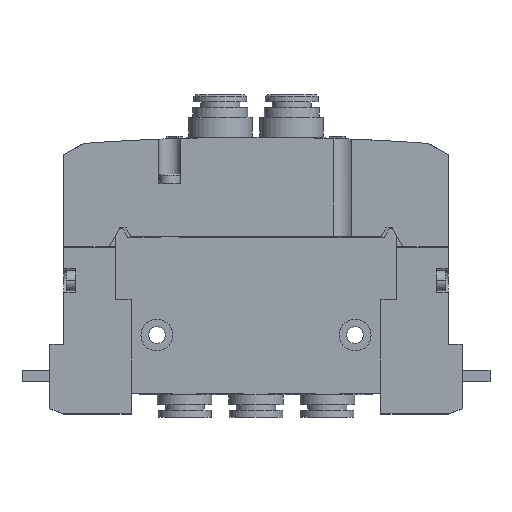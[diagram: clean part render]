
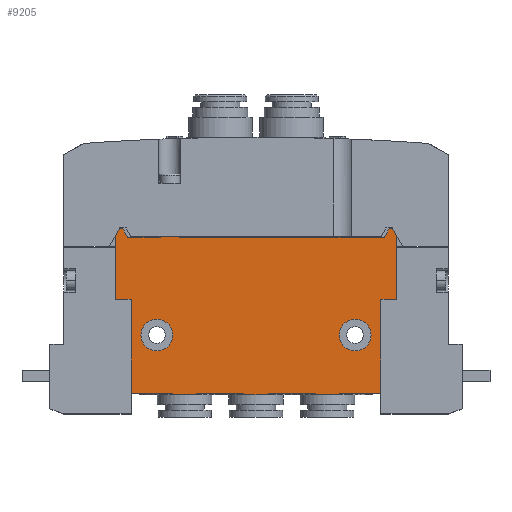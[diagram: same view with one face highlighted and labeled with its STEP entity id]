
A CAD part, top view. The second image highlights one B-rep face of the part: STEP entity #9205.
In plain terms, the highlighted planar face has unit normal (0, 0, 1).
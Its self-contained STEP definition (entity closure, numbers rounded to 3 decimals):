
#324=CARTESIAN_POINT('',(-25.,14.7,9.));
#325=DIRECTION('',(0.,0.,1.));
#326=DIRECTION('',(1.,0.,0.));
#327=AXIS2_PLACEMENT_3D('',#324,#325,#326);
#332=CARTESIAN_POINT('',(-25.,14.7,9.));
#333=DIRECTION('',(0.,0.,1.));
#334=DIRECTION('',(-1.,0.,0.));
#335=AXIS2_PLACEMENT_3D('',#332,#333,#334);
#340=CARTESIAN_POINT('',(25.,14.7,9.));
#341=DIRECTION('',(0.,0.,1.));
#342=DIRECTION('',(1.,0.,0.));
#343=AXIS2_PLACEMENT_3D('',#340,#341,#342);
#348=CARTESIAN_POINT('',(25.,14.7,9.));
#349=DIRECTION('',(0.,0.,1.));
#350=DIRECTION('',(-1.,0.,0.));
#351=AXIS2_PLACEMENT_3D('',#348,#349,#350);
#356=DIRECTION('',(1.,0.,0.));
#357=VECTOR('',#356,11.917);
#358=CARTESIAN_POINT('',(3.041,0.,9.));
#359=LINE('',#358,#357);
#363=DIRECTION('',(0.,-1.,0.));
#364=VECTOR('',#363,0.3);
#365=CARTESIAN_POINT('',(3.041,0.,9.));
#366=LINE('',#365,#364);
#370=DIRECTION('',(1.,0.,0.));
#371=VECTOR('',#370,11.917);
#372=CARTESIAN_POINT('',(-14.959,0.,9.));
#373=LINE('',#372,#371);
#377=DIRECTION('',(0.,-1.,0.));
#378=VECTOR('',#377,0.3);
#379=CARTESIAN_POINT('',(-14.959,0.,9.));
#380=LINE('',#379,#378);
#384=DIRECTION('',(1.,0.,0.));
#385=VECTOR('',#384,10.459);
#386=CARTESIAN_POINT('',(-31.5,0.,9.));
#387=LINE('',#386,#385);
#391=DIRECTION('',(0.,-1.,0.));
#392=VECTOR('',#391,23.7);
#393=CARTESIAN_POINT('',(-31.5,23.7,9.));
#394=LINE('',#393,#392);
#398=DIRECTION('',(1.,0.,0.));
#399=VECTOR('',#398,3.9);
#400=CARTESIAN_POINT('',(-35.4,23.7,9.));
#401=LINE('',#400,#399);
#405=DIRECTION('',(0.,-1.,0.));
#406=VECTOR('',#405,16.);
#407=CARTESIAN_POINT('',(-35.4,39.7,9.));
#408=LINE('',#407,#406);
#412=DIRECTION('',(-0.5,-0.866,0.));
#413=VECTOR('',#412,2.078);
#414=CARTESIAN_POINT('',(-34.361,41.5,9.));
#415=LINE('',#414,#413);
#419=DIRECTION('',(-1.,0.,0.));
#420=VECTOR('',#419,0.765);
#421=CARTESIAN_POINT('',(-33.596,41.5,9.));
#422=LINE('',#421,#420);
#426=DIRECTION('',(-0.5,0.866,0.));
#427=VECTOR('',#426,2.54);
#428=CARTESIAN_POINT('',(-32.326,39.3,9.));
#429=LINE('',#428,#427);
#433=DIRECTION('',(-1.,0.,0.));
#434=VECTOR('',#433,8.179);
#435=CARTESIAN_POINT('',(-24.147,39.3,9.));
#436=LINE('',#435,#434);
#440=DIRECTION('',(0.,1.,0.));
#441=VECTOR('',#440,0.3);
#442=CARTESIAN_POINT('',(-24.147,39.3,9.));
#443=LINE('',#442,#441);
#447=DIRECTION('',(-1.,0.,0.));
#448=VECTOR('',#447,51.679);
#449=CARTESIAN_POINT('',(32.326,39.3,9.));
#450=LINE('',#449,#448);
#454=DIRECTION('',(-0.5,-0.866,0.));
#455=VECTOR('',#454,2.54);
#456=CARTESIAN_POINT('',(33.596,41.5,9.));
#457=LINE('',#456,#455);
#461=DIRECTION('',(-1.,0.,0.));
#462=VECTOR('',#461,0.765);
#463=CARTESIAN_POINT('',(34.361,41.5,9.));
#464=LINE('',#463,#462);
#468=DIRECTION('',(-0.5,0.866,0.));
#469=VECTOR('',#468,2.078);
#470=CARTESIAN_POINT('',(35.4,39.7,9.));
#471=LINE('',#470,#469);
#475=DIRECTION('',(0.,1.,0.));
#476=VECTOR('',#475,16.);
#477=CARTESIAN_POINT('',(35.4,23.7,9.));
#478=LINE('',#477,#476);
#482=DIRECTION('',(1.,0.,0.));
#483=VECTOR('',#482,3.9);
#484=CARTESIAN_POINT('',(31.5,23.7,9.));
#485=LINE('',#484,#483);
#489=DIRECTION('',(0.,1.,0.));
#490=VECTOR('',#489,23.7);
#491=CARTESIAN_POINT('',(31.5,0.,9.));
#492=LINE('',#491,#490);
#496=DIRECTION('',(1.,0.,0.));
#497=VECTOR('',#496,10.459);
#498=CARTESIAN_POINT('',(21.041,0.,9.));
#499=LINE('',#498,#497);
#503=DIRECTION('',(0.,-1.,0.));
#504=VECTOR('',#503,0.3);
#505=CARTESIAN_POINT('',(21.041,0.,9.));
#506=LINE('',#505,#504);
#1450=DIRECTION('',(-1.,0.,0.));
#1451=VECTOR('',#1450,6.083);
#1452=CARTESIAN_POINT('',(-14.959,-0.3,9.));
#1453=LINE('',#1452,#1451);
#1473=DIRECTION('',(-1.,0.,0.));
#1474=VECTOR('',#1473,6.083);
#1475=CARTESIAN_POINT('',(3.041,-0.3,9.));
#1476=LINE('',#1475,#1474);
#1496=DIRECTION('',(-1.,0.,0.));
#1497=VECTOR('',#1496,6.083);
#1498=CARTESIAN_POINT('',(21.041,-0.3,9.));
#1499=LINE('',#1498,#1497);
#1579=DIRECTION('',(0.,-1.,0.));
#1580=VECTOR('',#1579,0.3);
#1581=CARTESIAN_POINT('',(-21.041,0.,9.));
#1582=LINE('',#1581,#1580);
#1593=DIRECTION('',(0.,-1.,0.));
#1594=VECTOR('',#1593,0.3);
#1595=CARTESIAN_POINT('',(-3.041,0.,9.));
#1596=LINE('',#1595,#1594);
#1607=DIRECTION('',(0.,-1.,0.));
#1608=VECTOR('',#1607,0.3);
#1609=CARTESIAN_POINT('',(14.959,0.,9.));
#1610=LINE('',#1609,#1608);
#3306=DIRECTION('',(0.,1.,0.));
#3307=VECTOR('',#3306,0.3);
#3308=CARTESIAN_POINT('',(-19.353,39.3,9.));
#3309=LINE('',#3308,#3307);
#3328=DIRECTION('',(1.,0.,0.));
#3329=VECTOR('',#3328,4.795);
#3330=CARTESIAN_POINT('',(-24.147,39.6,9.));
#3331=LINE('',#3330,#3329);
#7524=CARTESIAN_POINT('',(-32.326,39.3,9.));
#7525=CARTESIAN_POINT('',(-33.596,41.5,9.));
#7526=VERTEX_POINT('',#7524);
#7527=VERTEX_POINT('',#7525);
#7528=CARTESIAN_POINT('',(-34.361,41.5,9.));
#7529=VERTEX_POINT('',#7528);
#7530=CARTESIAN_POINT('',(-35.4,39.7,9.));
#7531=VERTEX_POINT('',#7530);
#7532=CARTESIAN_POINT('',(-35.4,23.7,9.));
#7533=VERTEX_POINT('',#7532);
#7534=CARTESIAN_POINT('',(-31.5,23.7,9.));
#7535=VERTEX_POINT('',#7534);
#7536=CARTESIAN_POINT('',(-31.5,0.,9.));
#7537=VERTEX_POINT('',#7536);
#7604=CARTESIAN_POINT('',(31.5,0.,9.));
#7605=CARTESIAN_POINT('',(31.5,23.7,9.));
#7606=VERTEX_POINT('',#7604);
#7607=VERTEX_POINT('',#7605);
#7608=CARTESIAN_POINT('',(35.4,23.7,9.));
#7609=VERTEX_POINT('',#7608);
#7610=CARTESIAN_POINT('',(35.4,39.7,9.));
#7611=VERTEX_POINT('',#7610);
#7612=CARTESIAN_POINT('',(34.361,41.5,9.));
#7613=VERTEX_POINT('',#7612);
#7614=CARTESIAN_POINT('',(33.596,41.5,9.));
#7615=VERTEX_POINT('',#7614);
#7616=CARTESIAN_POINT('',(32.326,39.3,9.));
#7617=VERTEX_POINT('',#7616);
#7904=CARTESIAN_POINT('',(-24.147,39.6,9.));
#7905=VERTEX_POINT('',#7904);
#7932=CARTESIAN_POINT('',(-24.147,39.3,9.));
#7933=VERTEX_POINT('',#7932);
#7936=CARTESIAN_POINT('',(-19.353,39.3,9.));
#7937=VERTEX_POINT('',#7936);
#7940=CARTESIAN_POINT('',(-19.353,39.6,9.));
#7941=VERTEX_POINT('',#7940);
#8302=CARTESIAN_POINT('',(-21.,14.7,9.));
#8303=CARTESIAN_POINT('',(-29.,14.7,9.));
#8304=VERTEX_POINT('',#8302);
#8305=VERTEX_POINT('',#8303);
#8306=CARTESIAN_POINT('',(29.,14.7,9.));
#8307=CARTESIAN_POINT('',(21.,14.7,9.));
#8308=VERTEX_POINT('',#8306);
#8309=VERTEX_POINT('',#8307);
#8327=CARTESIAN_POINT('',(21.041,-0.3,9.));
#8329=VERTEX_POINT('',#8327);
#8330=CARTESIAN_POINT('',(14.959,-0.3,9.));
#8331=VERTEX_POINT('',#8330);
#8334=CARTESIAN_POINT('',(3.041,-0.3,9.));
#8335=VERTEX_POINT('',#8334);
#8336=CARTESIAN_POINT('',(-3.041,-0.3,9.));
#8337=VERTEX_POINT('',#8336);
#8340=CARTESIAN_POINT('',(-14.959,-0.3,9.));
#8341=VERTEX_POINT('',#8340);
#8342=CARTESIAN_POINT('',(-21.041,-0.3,9.));
#8343=VERTEX_POINT('',#8342);
#8359=CARTESIAN_POINT('',(21.041,0.,9.));
#8361=VERTEX_POINT('',#8359);
#8362=CARTESIAN_POINT('',(14.959,0.,9.));
#8364=VERTEX_POINT('',#8362);
#8366=CARTESIAN_POINT('',(3.041,0.,9.));
#8367=VERTEX_POINT('',#8366);
#8368=CARTESIAN_POINT('',(-3.041,0.,9.));
#8370=VERTEX_POINT('',#8368);
#8372=CARTESIAN_POINT('',(-14.959,0.,9.));
#8373=VERTEX_POINT('',#8372);
#8374=CARTESIAN_POINT('',(-21.041,0.,9.));
#8376=VERTEX_POINT('',#8374);
#9130=CARTESIAN_POINT('',(0.,0.,9.));
#9131=DIRECTION('',(0.,0.,1.));
#9132=DIRECTION('',(1.,0.,0.));
#9133=AXIS2_PLACEMENT_3D('',#9130,#9131,#9132);
#9134=PLANE('',#9133);
#9136=ORIENTED_EDGE('',*,*,#9135,.F.);
#9138=ORIENTED_EDGE('',*,*,#9137,.T.);
#9140=ORIENTED_EDGE('',*,*,#9139,.T.);
#9142=ORIENTED_EDGE('',*,*,#9141,.F.);
#9144=ORIENTED_EDGE('',*,*,#9143,.F.);
#9146=ORIENTED_EDGE('',*,*,#9145,.T.);
#9148=ORIENTED_EDGE('',*,*,#9147,.T.);
#9150=ORIENTED_EDGE('',*,*,#9149,.F.);
#9152=ORIENTED_EDGE('',*,*,#9151,.F.);
#9154=ORIENTED_EDGE('',*,*,#9153,.F.);
#9156=ORIENTED_EDGE('',*,*,#9155,.F.);
#9158=ORIENTED_EDGE('',*,*,#9157,.F.);
#9160=ORIENTED_EDGE('',*,*,#9159,.F.);
#9162=ORIENTED_EDGE('',*,*,#9161,.F.);
#9164=ORIENTED_EDGE('',*,*,#9163,.F.);
#9166=ORIENTED_EDGE('',*,*,#9165,.F.);
#9168=ORIENTED_EDGE('',*,*,#9167,.T.);
#9170=ORIENTED_EDGE('',*,*,#9169,.T.);
#9172=ORIENTED_EDGE('',*,*,#9171,.F.);
#9174=ORIENTED_EDGE('',*,*,#9173,.F.);
#9176=ORIENTED_EDGE('',*,*,#9175,.F.);
#9178=ORIENTED_EDGE('',*,*,#9177,.F.);
#9180=ORIENTED_EDGE('',*,*,#9179,.F.);
#9182=ORIENTED_EDGE('',*,*,#9181,.F.);
#9184=ORIENTED_EDGE('',*,*,#9183,.F.);
#9186=ORIENTED_EDGE('',*,*,#9185,.F.);
#9188=ORIENTED_EDGE('',*,*,#9187,.F.);
#9190=ORIENTED_EDGE('',*,*,#9189,.T.);
#9192=ORIENTED_EDGE('',*,*,#9191,.T.);
#9194=ORIENTED_EDGE('',*,*,#9193,.F.);
#9195=EDGE_LOOP('',(#9136,#9138,#9140,#9142,#9144,#9146,#9148,#9150,#9152,#9154,
#9156,#9158,#9160,#9162,#9164,#9166,#9168,#9170,#9172,#9174,#9176,#9178,#9180,
#9182,#9184,#9186,#9188,#9190,#9192,#9194));
#9196=FACE_OUTER_BOUND('',#9195,.F.);
#9197=ORIENTED_EDGE('',*,*,#9093,.T.);
#9198=ORIENTED_EDGE('',*,*,#9121,.T.);
#9199=EDGE_LOOP('',(#9197,#9198));
#9200=FACE_BOUND('',#9199,.F.);
#9201=ORIENTED_EDGE('',*,*,#9002,.T.);
#9202=ORIENTED_EDGE('',*,*,#9031,.T.);
#9203=EDGE_LOOP('',(#9201,#9202));
#9204=FACE_BOUND('',#9203,.F.);
#9205=ADVANCED_FACE('',(#9196,#9200,#9204),#9134,.T.);
#328=CIRCLE('',#327,4.);
#336=CIRCLE('',#335,4.);
#344=CIRCLE('',#343,4.);
#352=CIRCLE('',#351,4.);
#9002=EDGE_CURVE('',#8304,#8305,#328,.T.);
#9031=EDGE_CURVE('',#8305,#8304,#336,.T.);
#9093=EDGE_CURVE('',#8308,#8309,#344,.T.);
#9121=EDGE_CURVE('',#8309,#8308,#352,.T.);
#9135=EDGE_CURVE('',#8367,#8364,#359,.T.);
#9137=EDGE_CURVE('',#8367,#8335,#366,.T.);
#9139=EDGE_CURVE('',#8335,#8337,#1476,.T.);
#9141=EDGE_CURVE('',#8370,#8337,#1596,.T.);
#9143=EDGE_CURVE('',#8373,#8370,#373,.T.);
#9145=EDGE_CURVE('',#8373,#8341,#380,.T.);
#9147=EDGE_CURVE('',#8341,#8343,#1453,.T.);
#9149=EDGE_CURVE('',#8376,#8343,#1582,.T.);
#9151=EDGE_CURVE('',#7537,#8376,#387,.T.);
#9153=EDGE_CURVE('',#7535,#7537,#394,.T.);
#9155=EDGE_CURVE('',#7533,#7535,#401,.T.);
#9157=EDGE_CURVE('',#7531,#7533,#408,.T.);
#9159=EDGE_CURVE('',#7529,#7531,#415,.T.);
#9161=EDGE_CURVE('',#7527,#7529,#422,.T.);
#9163=EDGE_CURVE('',#7526,#7527,#429,.T.);
#9165=EDGE_CURVE('',#7933,#7526,#436,.T.);
#9167=EDGE_CURVE('',#7933,#7905,#443,.T.);
#9169=EDGE_CURVE('',#7905,#7941,#3331,.T.);
#9171=EDGE_CURVE('',#7937,#7941,#3309,.T.);
#9173=EDGE_CURVE('',#7617,#7937,#450,.T.);
#9175=EDGE_CURVE('',#7615,#7617,#457,.T.);
#9177=EDGE_CURVE('',#7613,#7615,#464,.T.);
#9179=EDGE_CURVE('',#7611,#7613,#471,.T.);
#9181=EDGE_CURVE('',#7609,#7611,#478,.T.);
#9183=EDGE_CURVE('',#7607,#7609,#485,.T.);
#9185=EDGE_CURVE('',#7606,#7607,#492,.T.);
#9187=EDGE_CURVE('',#8361,#7606,#499,.T.);
#9189=EDGE_CURVE('',#8361,#8329,#506,.T.);
#9191=EDGE_CURVE('',#8329,#8331,#1499,.T.);
#9193=EDGE_CURVE('',#8364,#8331,#1610,.T.);
